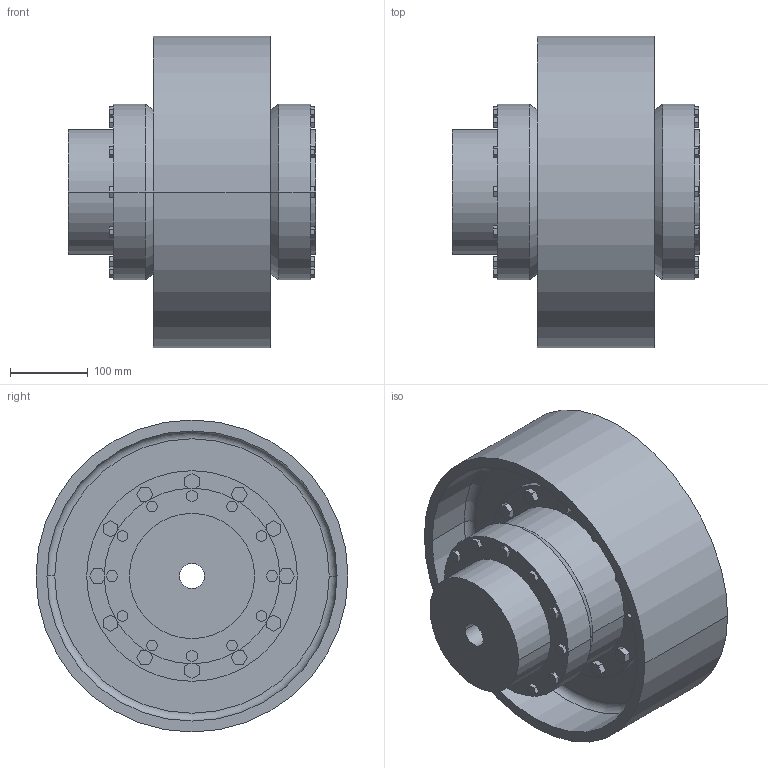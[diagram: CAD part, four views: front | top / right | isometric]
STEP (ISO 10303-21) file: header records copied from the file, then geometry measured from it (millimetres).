
FILE_DESCRIPTION((''),'2;1');
FILE_NAME('A19734600-0_ASM','2019-05-23T',('AB_Roschiwal'),('RENK AG'),'PRO/ENGINEER BY PARAMETRIC TECHNOLOGY CORPORATION, 2015440','PRO/ENGINEER BY PARAMETRIC TECHNOLOGY CORPORATION, 2015440','');
FILE_SCHEMA(('CONFIG_CONTROL_DESIGN'));
Length unit declared in the file: millimetre
Products named in the file (4): SBKD100_GEHAEUSE; SBKD100_NABE; SBKD100_BREMSSCHEIBE; A19734600-0_ASM
Assembly tree (4 placements, depth 2):
  A19734600-0_ASM
    SBKD100_GEHAEUSE
    SBKD100_NABE  x2
    SBKD100_BREMSSCHEIBE
Bounding box: 318 x 400 x 400 mm (x, y, z)
Volume: 11728811.7 mm3; surface area: 1291024.8 mm2
Topology: 4 solids, 4 shells, 474 faces, 1164 edges, 772 vertices
Faces by surface type: plane 370, cylinder 96, cone 4, torus 4
Entity records: 13708 total; most frequent: CARTESIAN_POINT 2366, ORIENTED_EDGE 2280, DIRECTION 2264, EDGE_CURVE 1140, VECTOR 956, LINE 956, VERTEX_POINT 756, AXIS2_PLACEMENT_3D 654
